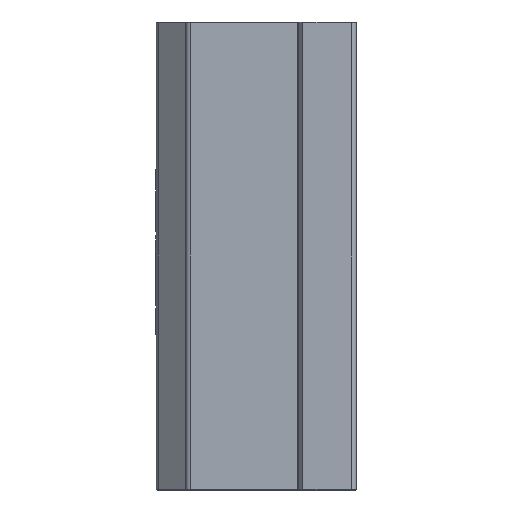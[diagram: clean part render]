
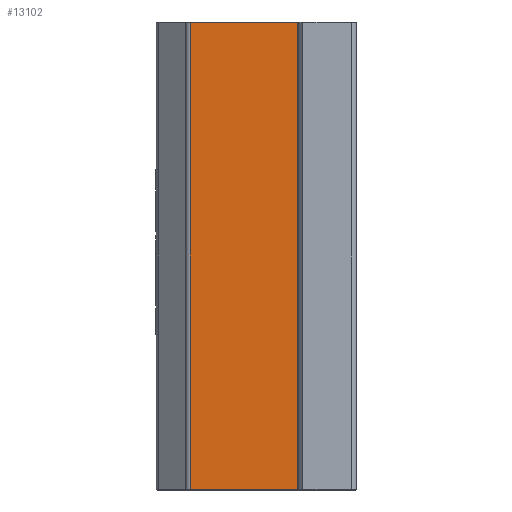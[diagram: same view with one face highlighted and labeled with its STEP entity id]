
A CAD part, left-side view. The second image highlights one B-rep face of the part: STEP entity #13102.
In plain terms, the highlighted planar face has unit normal (-1, 0, 0).
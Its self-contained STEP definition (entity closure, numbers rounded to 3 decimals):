
#140 = PLANE ( 'NONE',  #11215 ) ;
#410 = CARTESIAN_POINT ( 'NONE',  ( -26., 13.05, 95.85 ) ) ;
#694 = LINE ( 'NONE', #11979, #13329 ) ;
#734 = ORIENTED_EDGE ( 'NONE', *, *, #13516, .T. ) ;
#1140 = DIRECTION ( 'NONE',  ( 0., -1., 0. ) ) ;
#1263 = ORIENTED_EDGE ( 'NONE', *, *, #10869, .T. ) ;
#1405 = DIRECTION ( 'NONE',  ( 1., 0., 0. ) ) ;
#2474 = EDGE_CURVE ( 'NONE', #4916, #5672, #8248, .T. ) ;
#2792 = CARTESIAN_POINT ( 'NONE',  ( -26., -9.05, 95.85 ) ) ;
#3691 = EDGE_CURVE ( 'NONE', #8735, #3724, #12297, .T. ) ;
#3724 = VERTEX_POINT ( 'NONE', #7384 ) ;
#4643 = CARTESIAN_POINT ( 'NONE',  ( -26., 13.05, 0.15 ) ) ;
#4916 = VERTEX_POINT ( 'NONE', #14850 ) ;
#5672 = VERTEX_POINT ( 'NONE', #410 ) ;
#6053 = ORIENTED_EDGE ( 'NONE', *, *, #2474, .T. ) ;
#7118 = DIRECTION ( 'NONE',  ( 0., 0., -1. ) ) ;
#7281 = CARTESIAN_POINT ( 'NONE',  ( -26., -9.05, 0.15 ) ) ;
#7315 = LINE ( 'NONE', #14400, #10194 ) ;
#7384 = CARTESIAN_POINT ( 'NONE',  ( -26., -8.983, 0.15 ) ) ;
#8155 = ORIENTED_EDGE ( 'NONE', *, *, #3691, .T. ) ;
#8248 = LINE ( 'NONE', #2792, #11105 ) ;
#8735 = VERTEX_POINT ( 'NONE', #4643 ) ;
#9562 = DIRECTION ( 'NONE',  ( 0., 0., 1. ) ) ;
#9888 = EDGE_LOOP ( 'NONE', ( #6053, #1263, #8155, #734 ) ) ;
#10012 = DIRECTION ( 'NONE',  ( 0., 0., -1. ) ) ;
#10194 = VECTOR ( 'NONE', #9562, 1000. ) ;
#10869 = EDGE_CURVE ( 'NONE', #5672, #8735, #694, .T. ) ;
#11105 = VECTOR ( 'NONE', #11299, 1000. ) ;
#11215 = AXIS2_PLACEMENT_3D ( 'NONE', #14839, #1405, #10012 ) ;
#11299 = DIRECTION ( 'NONE',  ( 0., 1., 0. ) ) ;
#11979 = CARTESIAN_POINT ( 'NONE',  ( -26., 13.05, 96. ) ) ;
#12297 = LINE ( 'NONE', #7281, #12693 ) ;
#12693 = VECTOR ( 'NONE', #1140, 1000. ) ;
#13102 = ADVANCED_FACE ( 'NONE', ( #13419 ), #140, .F. ) ;
#13329 = VECTOR ( 'NONE', #7118, 1000. ) ;
#13419 = FACE_OUTER_BOUND ( 'NONE', #9888, .T. ) ;
#13516 = EDGE_CURVE ( 'NONE', #3724, #4916, #7315, .T. ) ;
#14400 = CARTESIAN_POINT ( 'NONE',  ( -26., -8.983, 96. ) ) ;
#14839 = CARTESIAN_POINT ( 'NONE',  ( -26., -9.05, 96. ) ) ;
#14850 = CARTESIAN_POINT ( 'NONE',  ( -26., -8.983, 95.85 ) ) ;
